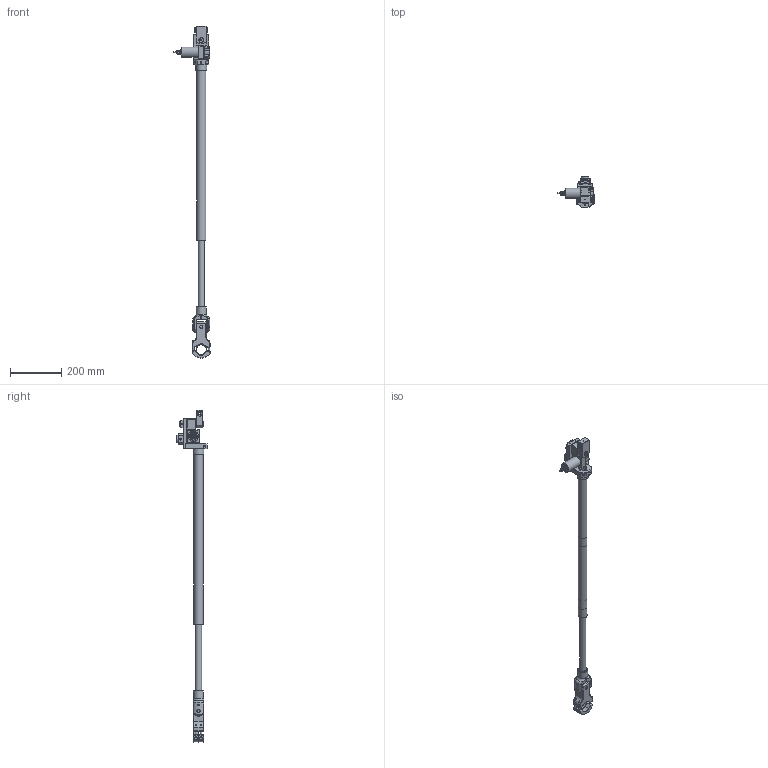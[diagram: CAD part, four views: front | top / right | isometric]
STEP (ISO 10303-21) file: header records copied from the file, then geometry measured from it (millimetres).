
FILE_DESCRIPTION( ( 'Unknown' ), '1' );
FILE_NAME( 'E:/0 Travail/0 Travaux en cours/Doga/Assemblage 2014/BIBLIOTEQUE 3D/Assemblage 2013/13-36-3877 DMF 140 LAPC DOGA/4-1200593-bras DMF 140 LPC_1500/4-1200593-bras DMF 140 LPC_1500.stp', 'Unknown', ( 'Unknown' ), ( 'Unknown' ), 'PSStep 14.0', 'Unknown', ' ' );
FILE_SCHEMA( ( 'AUTOMOTIVE_DESIGN { 1 0 10303 214 1 1 1 1 }' ) );
Length unit declared in the file: millimetre
Products named in the file (57): SX50-1250-10V-KA-M4; SX50-1250-10V-KA-M4_12; SX50-1250-10V-KA-M4_13; SX50-1250-10V-KA-M4_10; SX50-1250-10V-KA-M4_11; SX50-1250-10V-KA-M4_14; SX50-1250-10V-KA-M4_15; SX50-1250-10V-KA-M4_1; SX50-1250-10V-KA-M4_7; SX50-1250-10V-KA-M4_4; SX50-1250-10V-KA-M4_2; SX50-1250-10V-KA-M4_3; SX50-1250-10V-KA-M4_6; SX50-1250-10V-KA-M4_5; SX50-1250-10V-KA-M4_16; axe dia16 pour capteur d'angle assemblé DMF30 PC; Aimant; Rondelle AS1226; Rondelle AS1226-oa0; Butée à aiguilles AXK1226; Anneau élastique pour arbre 12; Axe Ø16 pour DMF30 PC ; Sous ens chape de pince DMF140; Chape pour pince DMF140; axe chape premium; Tube dia 36-32 DMF140 LAPC long 1500; bague de serrage pour DMF80 PC; Tube dia 32x36 DMF140 LAPC long 1500; Bague dia 25,1x32 L40; Bague dia 25,1x31 L40; Jonc dia 25 DMF140 LAPC long 1500; Bague dia 25,1x32 L40-oa1; Sous ensemble accrochage DMF140 LAPC; platine support capteur DMF80 PC; platine fixation carbone pour DMF80 PC; fourreau  pour DMF30 PC; Capteur de position angulaire QUADRO-R; Boitier de dérivation; Rondelle AS1730; Butée à aiguilles AXK1730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
Assembly tree (58 placements, depth 4):
  Assem1
    Sous ensemble accrochage DMF140 LAPC
      platine support capteur DMF80 PC
      platine fixation carbone pour DMF80 PC
      fourreau  pour DMF30 PC
      Capteur de position angulaire QUADRO-R
      Boitier de dérivation
      Rondelle AS1730  x2
      Butée à aiguilles AXK1730
      support fixation bras DMF30 et 80 LAPC
      Roulement à aiguilles HK1616  x2
      Rondelle pour axe équerre DMF30 et 80 APC
      Axe pour équerre DMF 30 et 80 APC
      06 L
      SX50-1250-10V-KA-M4
        SX50-1250-10V-KA-M4_12
        SX50-1250-10V-KA-M4_13
        SX50-1250-10V-KA-M4_10
        SX50-1250-10V-KA-M4_11
        SX50-1250-10V-KA-M4_14
        SX50-1250-10V-KA-M4_15
        SX50-1250-10V-KA-M4_1
        SX50-1250-10V-KA-M4_7
        SX50-1250-10V-KA-M4
        SX50-1250-10V-KA-M4_4
        SX50-1250-10V-KA-M4_2
        SX50-1250-10V-KA-M4_3
        SX50-1250-10V-KA-M4_6
        SX50-1250-10V-KA-M4_5
        SX50-1250-10V-KA-M4_16
      axe dia16 pour capteur d'angle assemblé DMF30 PC
        Aimant
        Rondelle AS1226
        Rondelle AS1226-oa0
        Butée à aiguilles AXK1226
        Anneau élastique pour arbre 12
        Axe Ø16 pour DMF30 PC 
    Tube dia 36-32 DMF140 LAPC long 1500
      bague de serrage pour DMF80 PC
      Tube dia 32x36 DMF140 LAPC long 1500
      Bague dia 25,1x32 L40
      Bague dia 25,1x31 L40
    Jonc dia 25 DMF140 LAPC long 1500
      Jonc dia 25 DMF140 LAPC long 1500
      Bague dia 25,1x32 L40-oa1
    Sous ens chape de pince DMF140
      Chape pour pince DMF140
      axe chape premium
    Sous ens Pince DMF80
      Collier BA100
      Collier BA100-oa2
      CHC M6x45 fileté sous tete
      CHC M6x45 fileté sous tete-oa3
      CHC M6x45 fileté sous tete-oa4
      CHC M6x45 fileté sous tete-oa5
      Placement
      Pince DMF80
Bounding box: 142 x 118.7 x 1296.79 mm (x, y, z)
Volume: 1141071.3 mm3; surface area: 439437.5 mm2
Topology: 36 solids, 205 shells, 1147 faces, 3377 edges, 2439 vertices
Faces by surface type: plane 542, cylinder 471, cone 99, torus 14, revolution 14, bspline 5, sphere 2
Full cylindrical faces by diameter (mm): 1 x2, 1.221 x1, 2.459 x7, 2.5 x4, 3.2 x5, 3.5 x1, 4.134 x12, 4.3 x2, 4.5 x1, 4.917 x12, 5 x5, 5.2 x7, 5.8 x4, 6 x10, 6.1 x1, 6.2 x5, 6.5 x4, 6.647 x3, 7 x3, 8 x2, 8.2 x2, 8.5 x1, 9 x4, 9.3 x1, 10 x5, 10.5 x3, 11.5 x1, 12 x16, 13 x2, 14 x1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
Entity records: 55918 total; most frequent: CARTESIAN_POINT 19439, DIRECTION 5340, ORIENTED_EDGE 4962, EDGE_CURVE 2980, VERTEX_POINT 2338, AXIS2_PLACEMENT_3D 2064, EDGE_LOOP 1604, LINE 1198
